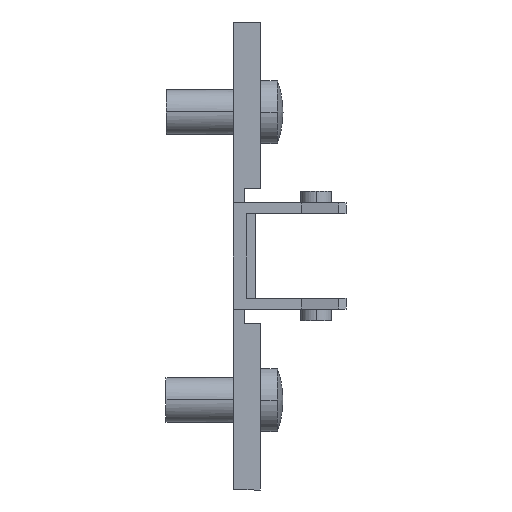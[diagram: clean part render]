
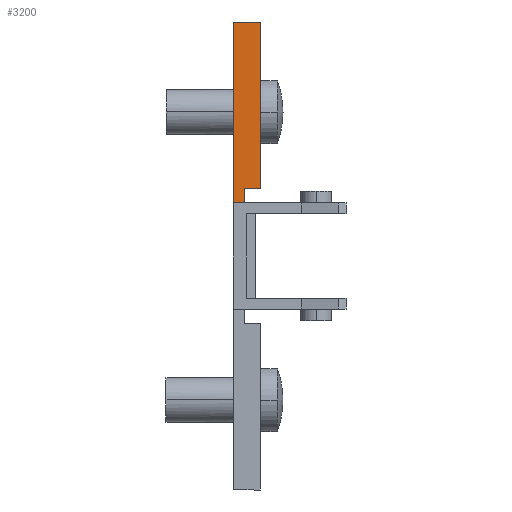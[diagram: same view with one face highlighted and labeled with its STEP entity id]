
A CAD part, front view. The second image highlights one B-rep face of the part: STEP entity #3200.
In plain terms, the highlighted planar face has unit normal (0, -1, 0).
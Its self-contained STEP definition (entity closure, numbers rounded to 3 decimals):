
#31 = VERTEX_POINT ( 'NONE', #1336 ) ;
#32 = VERTEX_POINT ( 'NONE', #1337 ) ;
#89 = VERTEX_POINT ( 'NONE', #1255 ) ;
#104 = VERTEX_POINT ( 'NONE', #1268 ) ;
#334 = VERTEX_POINT ( 'NONE', #1191 ) ;
#346 = VERTEX_POINT ( 'NONE', #1183 ) ;
#490 = DIRECTION ( 'NONE',  ( -1., 0., 0. ) ) ;
#495 = CARTESIAN_POINT ( 'NONE',  ( 0., -9., 5.9 ) ) ;
#710 = CARTESIAN_POINT ( 'NONE',  ( 3., -9., 26. ) ) ;
#712 = DIRECTION ( 'NONE',  ( 0., 0., -1. ) ) ;
#715 = DIRECTION ( 'NONE',  ( 0., 0., 1. ) ) ;
#858 = CARTESIAN_POINT ( 'NONE',  ( 0., -9., 5. ) ) ;
#958 = CARTESIAN_POINT ( 'NONE',  ( 0., -9., 26. ) ) ;
#978 = DIRECTION ( 'NONE',  ( 1., 0., 0. ) ) ;
#1029 = CARTESIAN_POINT ( 'NONE',  ( 1.2, -9., 7.5 ) ) ;
#1036 = DIRECTION ( 'NONE',  ( 0., 0., -1. ) ) ;
#1183 = CARTESIAN_POINT ( 'NONE',  ( 3., -9., 7.5 ) ) ;
#1191 = CARTESIAN_POINT ( 'NONE',  ( 3., -9., 26. ) ) ;
#1255 = CARTESIAN_POINT ( 'NONE',  ( 1.2, -9., 5.9 ) ) ;
#1268 = CARTESIAN_POINT ( 'NONE',  ( 1.2, -9., 7.5 ) ) ;
#1336 = CARTESIAN_POINT ( 'NONE',  ( 0., -9., 26. ) ) ;
#1337 = CARTESIAN_POINT ( 'NONE',  ( 0., -9., 5.9 ) ) ;
#1417 = FACE_OUTER_BOUND ( 'NONE', #2196, .T. ) ;
#1474 = VECTOR ( 'NONE', #2687, 1000. ) ;
#1500 = LINE ( 'NONE', #2688, #1474 ) ;
#1571 = EDGE_CURVE ( 'NONE', #31, #334, #3153, .T. ) ;
#1594 = EDGE_CURVE ( 'NONE', #32, #31, #3135, .T. ) ;
#1599 = EDGE_CURVE ( 'NONE', #334, #346, #3114, .T. ) ;
#1644 = EDGE_CURVE ( 'NONE', #104, #89, #3058, .T. ) ;
#1783 = EDGE_CURVE ( 'NONE', #89, #32, #2615, .T. ) ;
#1963 = AXIS2_PLACEMENT_3D ( 'NONE', #2854, #2736, #2746 ) ;
#2006 = EDGE_CURVE ( 'NONE', #346, #104, #1500, .T. ) ;
#2196 = EDGE_LOOP ( 'NONE', ( #3399, #3398, #3353, #3372, #3373, #3389 ) ) ;
#2615 = LINE ( 'NONE', #495, #2620 ) ;
#2620 = VECTOR ( 'NONE', #490, 1000. ) ;
#2687 = DIRECTION ( 'NONE',  ( -1., 0., 0. ) ) ;
#2688 = CARTESIAN_POINT ( 'NONE',  ( 3., -9., 7.5 ) ) ;
#2736 = DIRECTION ( 'NONE',  ( 0., 1., 0. ) ) ;
#2746 = DIRECTION ( 'NONE',  ( 0., 0., 1. ) ) ;
#2839 = PLANE ( 'NONE',  #1963 ) ;
#2854 = CARTESIAN_POINT ( 'NONE',  ( 0., -9., 5. ) ) ;
#3053 = VECTOR ( 'NONE', #1036, 1000. ) ;
#3058 = LINE ( 'NONE', #1029, #3053 ) ;
#3113 = VECTOR ( 'NONE', #712, 1000. ) ;
#3114 = LINE ( 'NONE', #710, #3113 ) ;
#3118 = VECTOR ( 'NONE', #715, 1000. ) ;
#3135 = LINE ( 'NONE', #858, #3118 ) ;
#3153 = LINE ( 'NONE', #958, #3156 ) ;
#3156 = VECTOR ( 'NONE', #978, 1000. ) ;
#3200 = ADVANCED_FACE ( 'NONE', ( #1417 ), #2839, .F. ) ;
#3353 = ORIENTED_EDGE ( 'NONE', *, *, #1644, .F. ) ;
#3372 = ORIENTED_EDGE ( 'NONE', *, *, #2006, .F. ) ;
#3373 = ORIENTED_EDGE ( 'NONE', *, *, #1599, .F. ) ;
#3389 = ORIENTED_EDGE ( 'NONE', *, *, #1571, .F. ) ;
#3398 = ORIENTED_EDGE ( 'NONE', *, *, #1783, .F. ) ;
#3399 = ORIENTED_EDGE ( 'NONE', *, *, #1594, .F. ) ;
